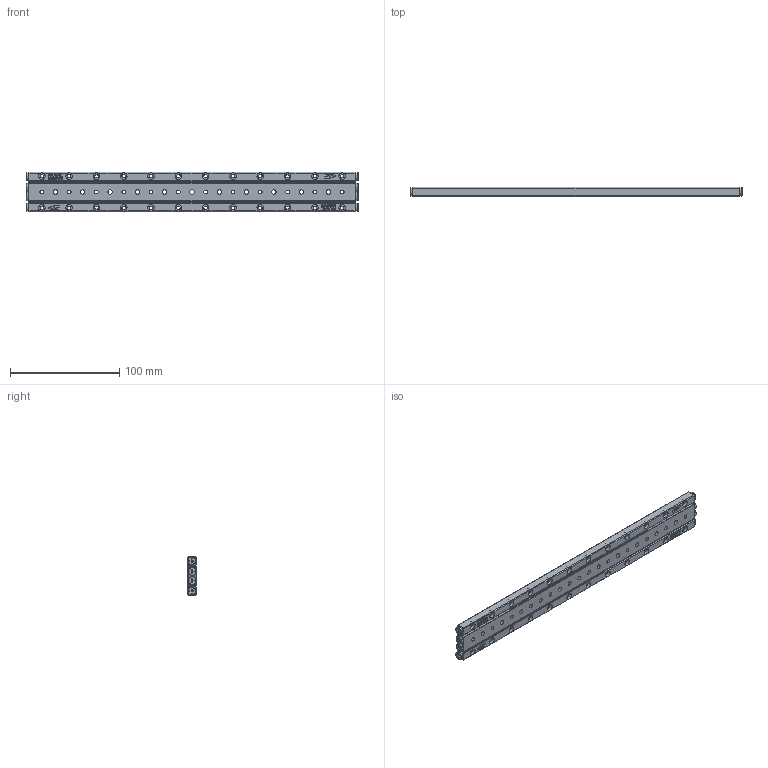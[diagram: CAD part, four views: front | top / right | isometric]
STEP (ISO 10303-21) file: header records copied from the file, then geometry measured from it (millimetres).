
FILE_DESCRIPTION (( 'STEP AP203' ), '1' );
FILE_NAME ('GRD03-300.STEP', '2023-11-07T02:30:19', ( '' ), ( '' ), 'SwSTEP 2.0', 'SolidWorks 2019', '' );
FILE_SCHEMA (( 'CONFIG_CONTROL_DESIGN' ));
Length unit declared in the file: millimetre
Products named in the file (4): GRV03-300-模糊化軌道; GRD03-300; GRV03-300-模糊化保持器組; GRD03-300-模糊化中軌
Assembly tree (5 placements, depth 2):
  GRD03-300
    GRD03-300-模糊化中軌
    GRV03-300-模糊化軌道  x2
    GRV03-300-模糊化保持器組  x2
Bounding box: 304 x 8.5 x 36 mm (x, y, z)
Volume: 73342.6 mm3; surface area: 48038.2 mm2
Topology: 5 solids, 5 shells, 2521 faces, 6132 edges, 4000 vertices
Faces by surface type: plane 1815, cylinder 237, bspline 237, torus 160, cone 72
Full cylindrical faces by diameter (mm): 3.3 x24, 3.5 x12, 4 x11, 6 x36, 7.5 x8
Entity records: 52733 total; most frequent: CARTESIAN_POINT 19024, ORIENTED_EDGE 7054, DIRECTION 5999, EDGE_CURVE 3527, LINE 2453, VECTOR 2453, VERTEX_POINT 2334, EDGE_LOOP 1853
